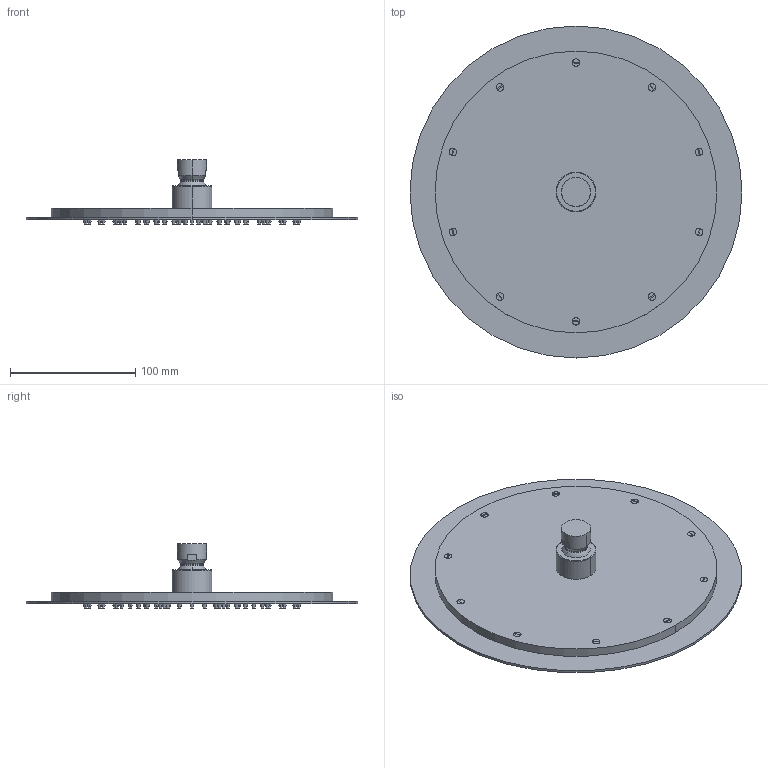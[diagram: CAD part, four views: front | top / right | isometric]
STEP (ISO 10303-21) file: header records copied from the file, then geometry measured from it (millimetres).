
FILE_DESCRIPTION((''),'2;1');
FILE_NAME('90916_SW0001','2021-05-03T11:57:49',('carloff'),(''),'CREO PARAMETRIC BY PTC INC, 2018100','CREO PARAMETRIC BY PTC INC, 2018100','');
FILE_SCHEMA(('CONFIG_CONTROL_DESIGN'));
Length unit declared in the file: millimetre
Products named in the file (1): 90916_SW0001
Bounding box: 265 x 265 x 51.7 mm (x, y, z)
Volume: 413200.5 mm3; surface area: 122658 mm2
Topology: 1 solids, 1 shells, 538 faces, 1093 edges, 670 vertices
Faces by surface type: torus 367, plane 139, cylinder 28, sphere 2, cone 2
Entity records: 14618 total; most frequent: DIRECTION 3158, CARTESIAN_POINT 2367, ORIENTED_EDGE 2186, AXIS2_PLACEMENT_3D 1531, EDGE_CURVE 1093, CIRCLE 993, VERTEX_POINT 670, EDGE_LOOP 651
